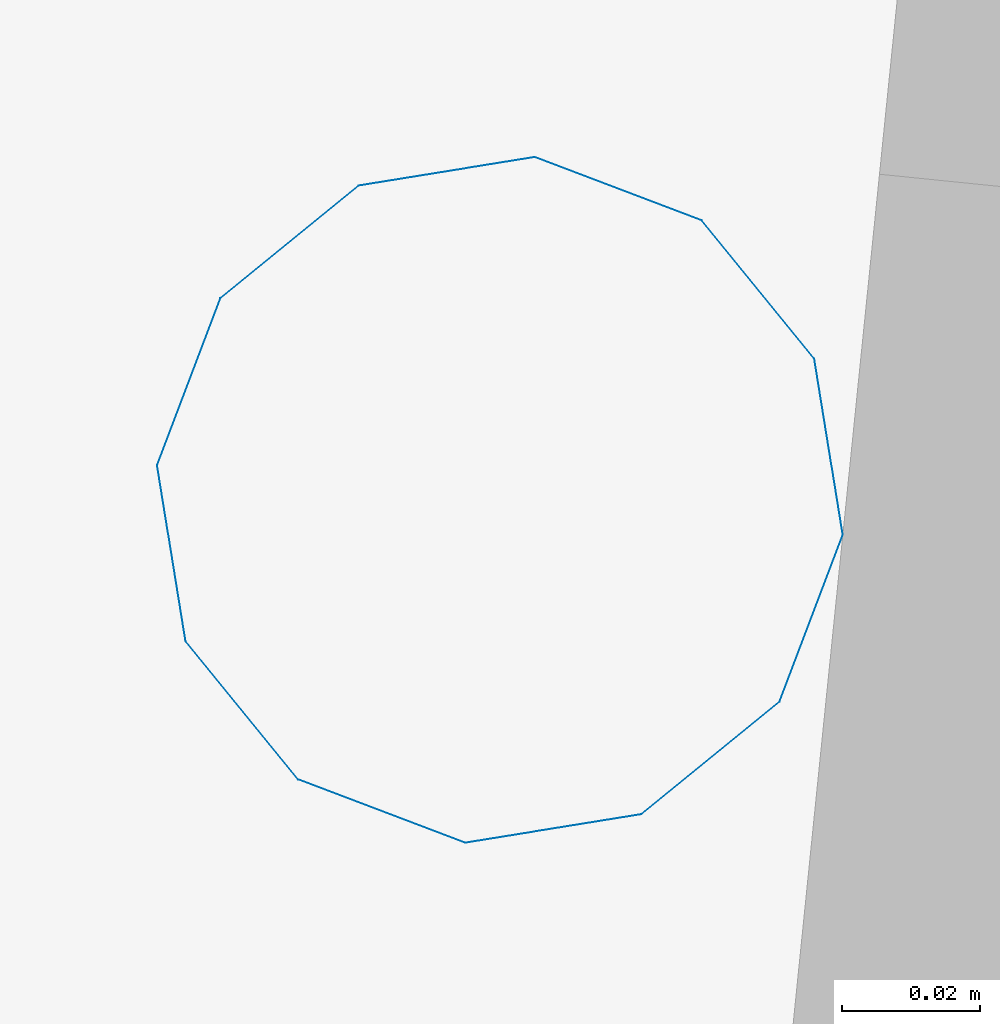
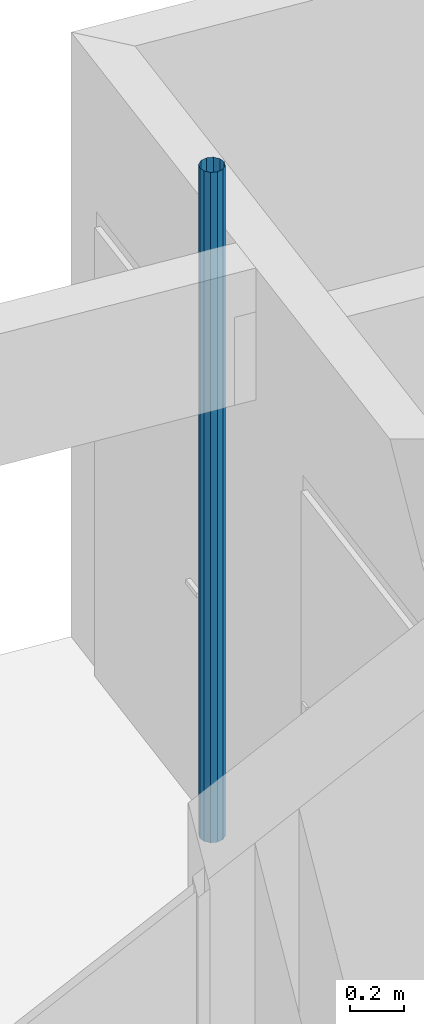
# One storey, part 98 of 171: 1 discrete accessory.
"""IFC2X3 building model written with IfcOpenShell, lengths in millimetres."""

from ifc_helpers import new_model, entity, si_unit, converted_unit, derived_unit, money_unit, direction, frame, origin_with_axes, place, context, subcontext, project, spatial, open_shell, surface_model, source, transform, mapped, type_object, element, save


model = new_model("IFC2X3")

# Units and contexts
model_context = context("Model", 3, precision=0.01, world=origin_with_axes(), true_north=direction((0.0, 1.0)))
body_context = subcontext(model_context, "Body", "Model", "MODEL_VIEW")
ifc_project = project(units=[si_unit("LENGTHUNIT", "METRE", prefix="MILLI"), si_unit("AREAUNIT", "SQUARE_METRE"), si_unit("VOLUMEUNIT", "CUBIC_METRE"), converted_unit("PLANEANGLEUNIT", "DEGREE", entity("IfcPlaneAngleMeasure", 0.0174532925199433), si_unit("PLANEANGLEUNIT", "RADIAN"), dimensions=[0, 0, 0, 0, 0, 0, 0]), money_unit("USD"), converted_unit("TIMEUNIT", "Year", entity("IfcTimeMeasure", 31557600.0), si_unit("TIMEUNIT", "SECOND"), dimensions=[0, 0, 1, 0, 0, 0, 0]), si_unit("MASSUNIT", "GRAM", prefix="KILO"), si_unit("THERMODYNAMICTEMPERATUREUNIT", "DEGREE_CELSIUS"), si_unit("LUMINOUSINTENSITYUNIT", "LUMEN"), si_unit("ENERGYUNIT", "JOULE", prefix="MEGA"), derived_unit("THERMALCONDUCTANCEUNIT", [(si_unit("POWERUNIT", "WATT"), 1), (si_unit("LENGTHUNIT", "METRE"), -1), (si_unit("THERMODYNAMICTEMPERATUREUNIT", "KELVIN"), -1)]), derived_unit("SPECIFICHEATCAPACITYUNIT", [(si_unit("ENERGYUNIT", "JOULE"), 1), (si_unit("MASSUNIT", "GRAM", prefix="KILO"), -1), (si_unit("THERMODYNAMICTEMPERATUREUNIT", "KELVIN"), -1)]), derived_unit("MASSDENSITYUNIT", [(si_unit("MASSUNIT", "GRAM", prefix="KILO"), 1), (si_unit("VOLUMEUNIT", "CUBIC_METRE"), -1)])], contexts=[model_context])

# Site, building, storey
site_placement = place(None, origin_with_axes())
site = spatial("IfcSite", under=ifc_project, at=site_placement, Name="Site", CompositionType="ELEMENT")
building_placement = place(site_placement, origin_with_axes())
building = spatial("IfcBuilding", under=site, at=building_placement, Name="Bâtiment", CompositionType="ELEMENT")
storey_placement = place(building_placement, frame((0.0, 0.0, 3000.0), z_axis=(0.0, 0.0, 1.0), x_axis=(1.0, 0.0, 0.0)))
storey = spatial("IfcBuildingStorey", under=building, at=storey_placement, Name="rdc", CompositionType="ELEMENT", Elevation=3000.0)

# Discrete accessory
discrete_accessory_type = type_object("IfcDiscreteAccessoryType", Name="Tuyau descente 27")
shared_shape = source(origin_with_axes(), body_context, "Body", "SurfaceModel", [
    surface_model("IfcShellBasedSurfaceModel", [(-50.0, 0.0, 3050.0), (-50.0, 0.0, 0.0), (-43.30127018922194, -25.0, 0.0), (-43.30127018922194, -25.0, 3050.0), (-43.30127018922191, 25.00000000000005, 3050.0), (-43.30127018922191, 25.00000000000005, 0.0), (-25.00000000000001, -43.30127018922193, 0.0), (-25.00000000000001, -43.30127018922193, 3050.0), (-24.99999999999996, 43.30127018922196, 3050.0), (-24.99999999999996, 43.30127018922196, 0.0), (0.0, -50.0, 0.0), (0.0, -50.0, 3050.0), (0.0, 50.0, 3050.0), (0.0, 50.0, 0.0), (24.99999999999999, -43.30127018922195, 0.0), (24.99999999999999, -43.30127018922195, 3050.0), (25.00000000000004, 43.30127018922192, 3050.0), (25.00000000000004, 43.30127018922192, 0.0), (43.30127018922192, -25.00000000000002, 0.0), (43.30127018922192, -25.00000000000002, 3050.0), (43.30127018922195, 24.99999999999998, 3050.0), (43.30127018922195, 24.99999999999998, 0.0), (50.0, 0.0, 0.0), (50.0, 0.0, 3050.0)], [open_shell([[[0, 1, 2, 3]], [[4, 5, 1, 0]], [[3, 2, 6, 7]], [[8, 9, 5, 4]], [[7, 6, 10, 11]], [[12, 13, 9, 8]], [[11, 10, 14, 15]], [[16, 17, 13, 12]], [[15, 14, 18, 19]], [[20, 21, 17, 16]], [[19, 18, 22, 23]], [[23, 22, 21, 20]]])]),
])
discrete_accessory_placement = place(storey_placement, frame((2230185.036657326, -606619.6430628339, 0.0), z_axis=(0.0, 0.0, 1.0), x_axis=(-0.9948759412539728, 0.1011032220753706, 0.0)))
element("IfcDiscreteAccessory", 1, at=discrete_accessory_placement, inside=storey, type_object=discrete_accessory_type, Name="Obj.-318", context=body_context, shape_type="MappedRepresentation", body=[
    mapped(shared_shape, transform((0.0, 0.0, 0.0))),
])

save(model, "model.ifc")
